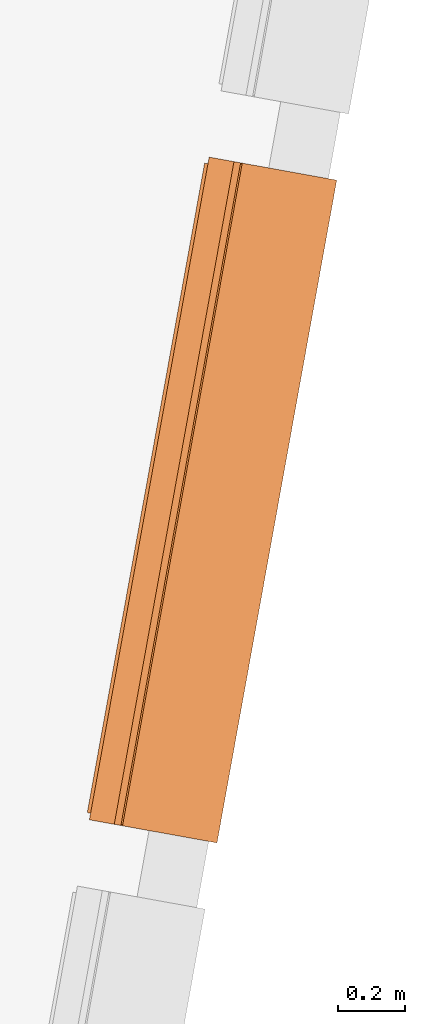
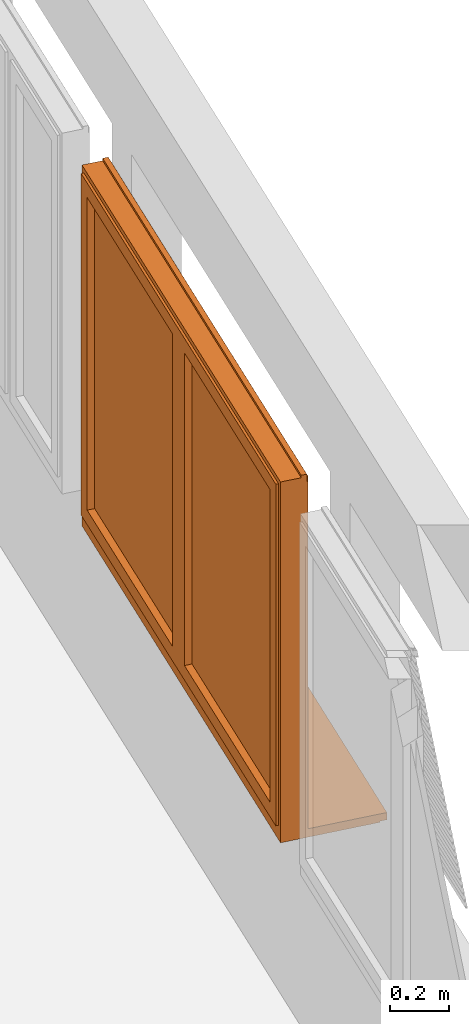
# One storey, part 36 of 52: 1 proxy.
"""IFC2X3 building model written with IfcOpenShell, lengths in metres."""

from ifc_helpers import new_model, entity, si_unit, converted_unit, derived_unit, money_unit, direction, frame, origin_with_axes, place, context, subcontext, project, spatial, open_shell, faceted_brep, surface_model, material, type_object, element, save


model = new_model("IFC2X3")

# Units and contexts
model_context = context("Model", 3, precision=1e-05, world=origin_with_axes(), true_north=direction((0.0, 1.0)))
body_context = subcontext(model_context, "Body", "Model", "MODEL_VIEW")
ifc_project = project(units=[si_unit("LENGTHUNIT", "METRE"), si_unit("AREAUNIT", "SQUARE_METRE"), si_unit("VOLUMEUNIT", "CUBIC_METRE"), converted_unit("PLANEANGLEUNIT", "DEGREE", entity("IfcPlaneAngleMeasure", 0.0174532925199), si_unit("PLANEANGLEUNIT", "RADIAN"), dimensions=[0, 0, 0, 0, 0, 0, 0]), money_unit("CHF"), converted_unit("TIMEUNIT", "Year", entity("IfcTimeMeasure", 31556926.0), si_unit("TIMEUNIT", "SECOND"), dimensions=[0, 0, 1, 0, 0, 0, 0]), si_unit("MASSUNIT", "GRAM", prefix="KILO"), si_unit("THERMODYNAMICTEMPERATUREUNIT", "DEGREE_CELSIUS"), si_unit("LUMINOUSINTENSITYUNIT", "LUMEN"), si_unit("ENERGYUNIT", "JOULE", prefix="MEGA"), derived_unit("THERMALCONDUCTANCEUNIT", [(si_unit("POWERUNIT", "WATT"), 1), (si_unit("LENGTHUNIT", "METRE"), -1), (si_unit("THERMODYNAMICTEMPERATUREUNIT", "KELVIN"), -1)]), derived_unit("SPECIFICHEATCAPACITYUNIT", [(si_unit("ENERGYUNIT", "JOULE"), 1), (si_unit("MASSUNIT", "GRAM", prefix="KILO"), -1), (si_unit("THERMODYNAMICTEMPERATUREUNIT", "KELVIN"), -1)]), derived_unit("MASSDENSITYUNIT", [(si_unit("MASSUNIT", "GRAM", prefix="KILO"), 1), (si_unit("VOLUMEUNIT", "CUBIC_METRE"), -1)])], contexts=[model_context])

# Site, building, storey
site_placement = place(None, frame((0.0, 0.0, 0.0), z_axis=(0.0, 0.0, 1.0), x_axis=(-0.177771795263, -0.984071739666, 0.0)))
site = spatial("IfcSite", under=ifc_project, at=site_placement, Name="Site", CompositionType="ELEMENT")
building_placement = place(site_placement, origin_with_axes())
building = spatial("IfcBuilding", under=site, at=building_placement, Name="Bâtiment", CompositionType="ELEMENT")
storey_placement = place(building_placement, frame((0.0, 0.0, 3.2), z_axis=(0.0, 0.0, 1.0), x_axis=(1.0, 0.0, 0.0)))
storey = spatial("IfcBuildingStorey", under=building, at=storey_placement, Name="R+1", CompositionType="ELEMENT", Elevation=3.2)

# Proxy
ifc_material = material(Name="Matériau de construction IFC")
building_element_proxy_type = type_object("IfcBuildingElementProxyType", Name="Fenêtre double 21", PredefinedType="NOTDEFINED")
proxy_placement = place(storey_placement, frame((160.099841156, -148.117150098, 1.0), z_axis=(0.0, 0.0, 1.0), x_axis=(-1.0, 0.0, 0.0)))
element("IfcBuildingElementProxy", 1, at=proxy_placement, inside=storey, type_object=building_element_proxy_type, material=ifc_material, Name="Fen classe-200", context=body_context, shape_type="SurfaceModel", body=[
    faceted_brep([(0.0, 0.285, 0.005), (0.0, 0.0, 0.005), (0.0, 0.0, 0.035), (0.0, 0.285, 0.035), (2.0, 0.285, 0.005), (2.0, 0.0, 0.005), (2.0, -0.025, 0.005), (0.0, -0.025, 0.005), (0.0, -0.025, 0.035), (2.0, -0.025, 0.035), (2.0, 0.0, 0.035), (2.0, 0.285, 0.035)], [[[0, 1, 2, 3]], [[0, 4, 5, 6, 7, 1]], [[1, 7, 8, 2]], [[3, 2, 8, 9, 10, 11]], [[4, 0, 3, 11]], [[5, 4, 11, 10]], [[6, 5, 10, 9]], [[7, 6, 9, 8]]]),
    faceted_brep([(0.0, 0.285, 0.0), (0.0, 0.0, 0.0), (0.0, 0.0, 0.005), (0.0, 0.285, 0.005), (2.0, 0.285, 0.0), (2.0, 0.0, 0.0), (2.0, 0.0, 0.005), (2.0, 0.285, 0.005)], [[[0, 1, 2, 3]], [[0, 4, 5, 1]], [[1, 5, 6, 2]], [[3, 2, 6, 7]], [[4, 0, 3, 7]], [[5, 4, 7, 6]]]),
    faceted_brep([(0.0, 0.285, 1.48), (0.00299999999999, 0.285, 1.48), (0.00299999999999, 0.265, 1.48), (0.0, 0.265, 1.48), (0.0, 0.285, 1.51), (0.00299999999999, 0.285, 1.51), (0.00299999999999, 0.265, 1.51), (0.0, 0.265, 1.51)], [[[0, 1, 2, 3]], [[4, 5, 1, 0]], [[1, 5, 6, 2]], [[3, 2, 6, 7]], [[0, 3, 7, 4]], [[7, 6, 5, 4]]]),
    faceted_brep([(1.997, 0.285, 1.48), (2.0, 0.285, 1.48), (2.0, 0.265, 1.48), (1.997, 0.265, 1.48), (1.997, 0.285, 1.51), (2.0, 0.285, 1.51), (2.0, 0.265, 1.51), (1.997, 0.265, 1.51)], [[[0, 1, 2, 3]], [[4, 5, 1, 0]], [[1, 5, 6, 2]], [[3, 2, 6, 7]], [[0, 3, 7, 4]], [[7, 6, 5, 4]]]),
    faceted_brep([(0.00299999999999, 0.285, 1.48), (1.997, 0.285, 1.48), (1.997, 0.282, 1.48), (0.00299999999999, 0.282, 1.48), (0.00299999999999, 0.285, 1.51), (1.997, 0.285, 1.51), (1.997, 0.265, 1.51), (1.997, 0.265, 1.48), (1.997, 0.268, 1.48), (1.997, 0.268, 1.5), (1.997, 0.26, 1.5), (1.997, 0.26, 1.48), (1.997, 0.263, 1.48), (1.997, 0.263, 1.503), (1.997, 0.268, 1.503), (1.997, 0.268, 1.507), (1.997, 0.282, 1.507), (1.997, 0.282, 1.5), (0.00299999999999, 0.282, 1.5), (0.00299999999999, 0.282, 1.507), (0.00299999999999, 0.268, 1.507), (0.00299999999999, 0.268, 1.503), (0.00299999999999, 0.263, 1.503), (0.00299999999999, 0.263, 1.48), (0.00299999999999, 0.26, 1.48), (0.00299999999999, 0.26, 1.5), (0.00299999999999, 0.268, 1.5), (0.00299999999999, 0.268, 1.48), (0.00299999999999, 0.265, 1.48), (0.00299999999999, 0.265, 1.51)], [[[0, 1, 2, 3]], [[4, 5, 1, 0]], [[1, 5, 6, 7, 8, 9, 10, 11, 12, 13, 14, 15, 16, 17, 2]], [[3, 2, 17, 18]], [[0, 3, 18, 19, 20, 21, 22, 23, 24, 25, 26, 27, 28, 29, 4]], [[29, 6, 5, 4]], [[28, 7, 6, 29]], [[27, 8, 7, 28]], [[26, 9, 8, 27]], [[25, 10, 9, 26]], [[24, 11, 10, 25]], [[23, 12, 11, 24]], [[22, 13, 12, 23]], [[21, 14, 13, 22]], [[20, 15, 14, 21]], [[19, 16, 15, 20]], [[18, 17, 16, 19]]]),
    faceted_brep([(2.0, 0.285, 0.03), (2.0, 0.285, 1.48), (2.0, 0.26, 1.48), (2.0, 0.26, 0.03), (1.975, 0.285, 0.03), (1.975, 0.285, 1.48), (1.975, 0.282, 1.48), (1.997, 0.282, 1.48), (1.997, 0.263, 1.48), (1.975, 0.263, 1.48), (1.975, 0.26, 1.48), (1.975, 0.26, 0.03), (1.975, 0.263, 0.03), (1.997, 0.263, 0.03), (1.997, 0.282, 0.03), (1.975, 0.282, 0.03)], [[[0, 1, 2, 3]], [[4, 5, 1, 0]], [[1, 5, 6, 7, 8, 9, 10, 2]], [[3, 2, 10, 11]], [[0, 3, 11, 12, 13, 14, 15, 4]], [[15, 6, 5, 4]], [[14, 7, 6, 15]], [[13, 8, 7, 14]], [[12, 9, 8, 13]], [[11, 10, 9, 12]]]),
    faceted_brep([(0.0, 0.285, 0.03), (0.0, 0.26, 0.03), (0.0, 0.26, 1.48), (0.0, 0.285, 1.48), (0.025, 0.285, 0.03), (0.025, 0.282, 0.03), (0.00299999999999, 0.282, 0.03), (0.00299999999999, 0.263, 0.03), (0.025, 0.263, 0.03), (0.025, 0.26, 0.03), (0.025, 0.26, 1.48), (0.025, 0.263, 1.48), (0.00299999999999, 0.263, 1.48), (0.00299999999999, 0.282, 1.48), (0.025, 0.282, 1.48), (0.025, 0.285, 1.48)], [[[0, 1, 2, 3]], [[0, 4, 5, 6, 7, 8, 9, 1]], [[1, 9, 10, 2]], [[3, 2, 10, 11, 12, 13, 14, 15]], [[4, 0, 3, 15]], [[5, 4, 15, 14]], [[6, 5, 14, 13]], [[7, 6, 13, 12]], [[8, 7, 12, 11]], [[9, 8, 11, 10]]]),
    faceted_brep([(1.997, 0.27375, 1.505), (1.997, 0.273333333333, 1.50333333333), (0.00299999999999, 0.273333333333, 1.50333333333), (0.00299999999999, 0.27375, 1.505), (1.997, 0.26875, 1.505), (1.997, 0.268333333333, 1.50333333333), (1.997, 0.268333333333, 1.49666666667), (1.997, 0.27, 1.49), (1.997, 0.275, 1.49), (1.997, 0.273333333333, 1.49666666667), (0.00299999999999, 0.273333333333, 1.49666666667), (0.00299999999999, 0.275, 1.49), (0.00299999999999, 0.27, 1.49), (0.00299999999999, 0.268333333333, 1.49666666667), (0.00299999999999, 0.268333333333, 1.50333333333), (0.00299999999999, 0.26875, 1.505)], [[[0, 1, 2, 3]], [[4, 5, 6, 7, 8, 9, 1, 0]], [[2, 1, 9, 10]], [[3, 2, 10, 11, 12, 13, 14, 15]], [[3, 15, 4, 0]], [[14, 5, 4, 15]], [[13, 6, 5, 14]], [[12, 7, 6, 13]], [[11, 8, 7, 12]], [[10, 9, 8, 11]]]),
    faceted_brep([(0.00299999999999, 0.275, 1.49), (1.997, 0.275, 1.49), (1.997, 0.273333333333, 1.48333333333), (0.00299999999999, 0.273333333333, 1.48333333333), (0.00299999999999, 0.27, 1.49), (1.997, 0.27, 1.49), (1.997, 0.268333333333, 1.48333333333), (1.997, 0.268333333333, 1.47666666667), (1.997, 0.27, 1.47), (1.997, 0.275, 1.47), (1.997, 0.273333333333, 1.47666666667), (0.00299999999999, 0.273333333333, 1.47666666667), (0.00299999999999, 0.275, 1.47), (0.00299999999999, 0.27, 1.47), (0.00299999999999, 0.268333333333, 1.47666666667), (0.00299999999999, 0.268333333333, 1.48333333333)], [[[0, 1, 2, 3]], [[4, 5, 1, 0]], [[1, 5, 6, 7, 8, 9, 10, 2]], [[3, 2, 10, 11]], [[0, 3, 11, 12, 13, 14, 15, 4]], [[15, 6, 5, 4]], [[14, 7, 6, 15]], [[13, 8, 7, 14]], [[12, 9, 8, 13]], [[11, 10, 9, 12]]]),
    faceted_brep([(0.00299999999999, 0.275, 1.47), (1.997, 0.275, 1.47), (1.997, 0.273333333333, 1.46333333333), (0.00299999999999, 0.273333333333, 1.46333333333), (0.00299999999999, 0.27, 1.47), (1.997, 0.27, 1.47), (1.997, 0.268333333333, 1.46333333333), (1.997, 0.268333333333, 1.45666666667), (1.997, 0.27, 1.45), (1.997, 0.275, 1.45), (1.997, 0.273333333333, 1.45666666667), (0.00299999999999, 0.273333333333, 1.45666666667), (0.00299999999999, 0.275, 1.45), (0.00299999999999, 0.27, 1.45), (0.00299999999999, 0.268333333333, 1.45666666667), (0.00299999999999, 0.268333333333, 1.46333333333)], [[[0, 1, 2, 3]], [[4, 5, 1, 0]], [[1, 5, 6, 7, 8, 9, 10, 2]], [[3, 2, 10, 11]], [[0, 3, 11, 12, 13, 14, 15, 4]], [[15, 6, 5, 4]], [[14, 7, 6, 15]], [[13, 8, 7, 14]], [[12, 9, 8, 13]], [[11, 10, 9, 12]]]),
    faceted_brep([(0.00299999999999, 0.275, 1.45), (1.997, 0.275, 1.45), (1.997, 0.273333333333, 1.44333333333), (0.00299999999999, 0.273333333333, 1.44333333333), (0.00299999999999, 0.27, 1.45), (1.997, 0.27, 1.45), (1.997, 0.268333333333, 1.44333333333), (1.997, 0.268333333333, 1.43666666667), (1.997, 0.27, 1.43), (1.997, 0.275, 1.43), (1.997, 0.273333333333, 1.43666666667), (0.00299999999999, 0.273333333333, 1.43666666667), (0.00299999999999, 0.275, 1.43), (0.00299999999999, 0.27, 1.43), (0.00299999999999, 0.268333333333, 1.43666666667), (0.00299999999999, 0.268333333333, 1.44333333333)], [[[0, 1, 2, 3]], [[4, 5, 1, 0]], [[1, 5, 6, 7, 8, 9, 10, 2]], [[3, 2, 10, 11]], [[0, 3, 11, 12, 13, 14, 15, 4]], [[15, 6, 5, 4]], [[14, 7, 6, 15]], [[13, 8, 7, 14]], [[12, 9, 8, 13]], [[11, 10, 9, 12]]]),
    faceted_brep([(0.00299999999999, 0.275, 1.43), (1.997, 0.275, 1.43), (1.997, 0.273333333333, 1.42333333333), (0.00299999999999, 0.273333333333, 1.42333333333), (0.00299999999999, 0.27, 1.43), (1.997, 0.27, 1.43), (1.997, 0.268333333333, 1.42333333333), (1.997, 0.268333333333, 1.41666666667), (1.997, 0.27, 1.41), (1.997, 0.275, 1.41), (1.997, 0.273333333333, 1.41666666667), (0.00299999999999, 0.273333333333, 1.41666666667), (0.00299999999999, 0.275, 1.41), (0.00299999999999, 0.27, 1.41), (0.00299999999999, 0.268333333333, 1.41666666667), (0.00299999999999, 0.268333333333, 1.42333333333)], [[[0, 1, 2, 3]], [[4, 5, 1, 0]], [[1, 5, 6, 7, 8, 9, 10, 2]], [[3, 2, 10, 11]], [[0, 3, 11, 12, 13, 14, 15, 4]], [[15, 6, 5, 4]], [[14, 7, 6, 15]], [[13, 8, 7, 14]], [[12, 9, 8, 13]], [[11, 10, 9, 12]]]),
    faceted_brep([(0.00299999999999, 0.275, 1.41), (1.997, 0.275, 1.41), (1.997, 0.273333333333, 1.40333333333), (0.00299999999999, 0.273333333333, 1.40333333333), (0.00299999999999, 0.27, 1.41), (1.997, 0.27, 1.41), (1.997, 0.268333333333, 1.40333333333), (1.997, 0.268333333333, 1.39666666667), (1.997, 0.27, 1.39), (1.997, 0.275, 1.39), (1.997, 0.273333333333, 1.39666666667), (0.00299999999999, 0.273333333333, 1.39666666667), (0.00299999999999, 0.275, 1.39), (0.00299999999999, 0.27, 1.39), (0.00299999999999, 0.268333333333, 1.39666666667), (0.00299999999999, 0.268333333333, 1.40333333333)], [[[0, 1, 2, 3]], [[4, 5, 1, 0]], [[1, 5, 6, 7, 8, 9, 10, 2]], [[3, 2, 10, 11]], [[0, 3, 11, 12, 13, 14, 15, 4]], [[15, 6, 5, 4]], [[14, 7, 6, 15]], [[13, 8, 7, 14]], [[12, 9, 8, 13]], [[11, 10, 9, 12]]]),
    faceted_brep([(0.00299999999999, 0.275, 1.39), (1.997, 0.275, 1.39), (1.997, 0.273333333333, 1.38333333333), (0.00299999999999, 0.273333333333, 1.38333333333), (0.00299999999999, 0.27, 1.39), (1.997, 0.27, 1.39), (1.997, 0.268333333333, 1.38333333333), (1.997, 0.268333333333, 1.37666666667), (1.997, 0.27, 1.37), (1.997, 0.275, 1.37), (1.997, 0.273333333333, 1.37666666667), (0.00299999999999, 0.273333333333, 1.37666666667), (0.00299999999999, 0.275, 1.37), (0.00299999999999, 0.27, 1.37), (0.00299999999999, 0.268333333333, 1.37666666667), (0.00299999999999, 0.268333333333, 1.38333333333)], [[[0, 1, 2, 3]], [[4, 5, 1, 0]], [[1, 5, 6, 7, 8, 9, 10, 2]], [[3, 2, 10, 11]], [[0, 3, 11, 12, 13, 14, 15, 4]], [[15, 6, 5, 4]], [[14, 7, 6, 15]], [[13, 8, 7, 14]], [[12, 9, 8, 13]], [[11, 10, 9, 12]]]),
    faceted_brep([(0.00299999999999, 0.275, 1.37), (1.997, 0.275, 1.37), (1.997, 0.273333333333, 1.36333333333), (0.00299999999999, 0.273333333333, 1.36333333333), (0.00299999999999, 0.27, 1.37), (1.997, 0.27, 1.37), (1.997, 0.268333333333, 1.36333333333), (1.997, 0.268333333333, 1.35666666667), (1.997, 0.27, 1.35), (1.997, 0.275, 1.35), (1.997, 0.273333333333, 1.35666666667), (0.00299999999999, 0.273333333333, 1.35666666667), (0.00299999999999, 0.275, 1.35), (0.00299999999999, 0.27, 1.35), (0.00299999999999, 0.268333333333, 1.35666666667), (0.00299999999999, 0.268333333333, 1.36333333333)], [[[0, 1, 2, 3]], [[4, 5, 1, 0]], [[1, 5, 6, 7, 8, 9, 10, 2]], [[3, 2, 10, 11]], [[0, 3, 11, 12, 13, 14, 15, 4]], [[15, 6, 5, 4]], [[14, 7, 6, 15]], [[13, 8, 7, 14]], [[12, 9, 8, 13]], [[11, 10, 9, 12]]]),
    faceted_brep([(0.00299999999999, 0.275, 1.35), (1.997, 0.275, 1.35), (1.997, 0.273333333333, 1.34333333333), (0.00299999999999, 0.273333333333, 1.34333333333), (0.00299999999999, 0.27, 1.35), (1.997, 0.27, 1.35), (1.997, 0.268333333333, 1.34333333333), (1.997, 0.268333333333, 1.33666666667), (1.997, 0.27, 1.33), (1.997, 0.275, 1.33), (1.997, 0.273333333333, 1.33666666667), (0.00299999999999, 0.273333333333, 1.33666666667), (0.00299999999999, 0.275, 1.33), (0.00299999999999, 0.27, 1.33), (0.00299999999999, 0.268333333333, 1.33666666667), (0.00299999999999, 0.268333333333, 1.34333333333)], [[[0, 1, 2, 3]], [[4, 5, 1, 0]], [[1, 5, 6, 7, 8, 9, 10, 2]], [[3, 2, 10, 11]], [[0, 3, 11, 12, 13, 14, 15, 4]], [[15, 6, 5, 4]], [[14, 7, 6, 15]], [[13, 8, 7, 14]], [[12, 9, 8, 13]], [[11, 10, 9, 12]]]),
    faceted_brep([(0.00299999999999, 0.275, 1.33), (1.997, 0.275, 1.33), (1.997, 0.273333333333, 1.32333333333), (0.00299999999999, 0.273333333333, 1.32333333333), (0.00299999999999, 0.27, 1.33), (1.997, 0.27, 1.33), (1.997, 0.268333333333, 1.32333333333), (1.997, 0.268333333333, 1.31666666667), (1.997, 0.27, 1.31), (1.997, 0.275, 1.31), (1.997, 0.273333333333, 1.31666666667), (0.00299999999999, 0.273333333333, 1.31666666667), (0.00299999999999, 0.275, 1.31), (0.00299999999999, 0.27, 1.31), (0.00299999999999, 0.268333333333, 1.31666666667), (0.00299999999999, 0.268333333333, 1.32333333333)], [[[0, 1, 2, 3]], [[4, 5, 1, 0]], [[1, 5, 6, 7, 8, 9, 10, 2]], [[3, 2, 10, 11]], [[0, 3, 11, 12, 13, 14, 15, 4]], [[15, 6, 5, 4]], [[14, 7, 6, 15]], [[13, 8, 7, 14]], [[12, 9, 8, 13]], [[11, 10, 9, 12]]]),
    faceted_brep([(0.00299999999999, 0.275, 1.31), (1.997, 0.275, 1.31), (1.997, 0.273333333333, 1.30333333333), (0.00299999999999, 0.273333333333, 1.30333333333), (0.00299999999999, 0.27, 1.31), (1.997, 0.27, 1.31), (1.997, 0.268333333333, 1.30333333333), (1.997, 0.268333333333, 1.29666666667), (1.997, 0.27, 1.29), (1.997, 0.275, 1.29), (1.997, 0.273333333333, 1.29666666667), (0.00299999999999, 0.273333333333, 1.29666666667), (0.00299999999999, 0.275, 1.29), (0.00299999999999, 0.27, 1.29), (0.00299999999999, 0.268333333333, 1.29666666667), (0.00299999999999, 0.268333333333, 1.30333333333)], [[[0, 1, 2, 3]], [[4, 5, 1, 0]], [[1, 5, 6, 7, 8, 9, 10, 2]], [[3, 2, 10, 11]], [[0, 3, 11, 12, 13, 14, 15, 4]], [[15, 6, 5, 4]], [[14, 7, 6, 15]], [[13, 8, 7, 14]], [[12, 9, 8, 13]], [[11, 10, 9, 12]]]),
    faceted_brep([(0.00299999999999, 0.275, 1.29), (1.997, 0.275, 1.29), (1.997, 0.273333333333, 1.28333333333), (0.00299999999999, 0.273333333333, 1.28333333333), (0.00299999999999, 0.27, 1.29), (1.997, 0.27, 1.29), (1.997, 0.268333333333, 1.28333333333), (1.997, 0.268333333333, 1.27666666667), (1.997, 0.27, 1.27), (1.997, 0.275, 1.27), (1.997, 0.273333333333, 1.27666666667), (0.00299999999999, 0.273333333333, 1.27666666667), (0.00299999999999, 0.275, 1.27), (0.00299999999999, 0.27, 1.27), (0.00299999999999, 0.268333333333, 1.27666666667), (0.00299999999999, 0.268333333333, 1.28333333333)], [[[0, 1, 2, 3]], [[4, 5, 1, 0]], [[1, 5, 6, 7, 8, 9, 10, 2]], [[3, 2, 10, 11]], [[0, 3, 11, 12, 13, 14, 15, 4]], [[15, 6, 5, 4]], [[14, 7, 6, 15]], [[13, 8, 7, 14]], [[12, 9, 8, 13]], [[11, 10, 9, 12]]]),
    faceted_brep([(0.00299999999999, 0.275, 1.27), (1.997, 0.275, 1.27), (1.997, 0.273333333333, 1.26333333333), (0.00299999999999, 0.273333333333, 1.26333333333), (0.00299999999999, 0.27, 1.27), (1.997, 0.27, 1.27), (1.997, 0.268333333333, 1.26333333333), (1.997, 0.268333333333, 1.25666666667), (1.997, 0.27, 1.25), (1.997, 0.275, 1.25), (1.997, 0.273333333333, 1.25666666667), (0.00299999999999, 0.273333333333, 1.25666666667), (0.00299999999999, 0.275, 1.25), (0.00299999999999, 0.27, 1.25), (0.00299999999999, 0.268333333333, 1.25666666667), (0.00299999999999, 0.268333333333, 1.26333333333)], [[[0, 1, 2, 3]], [[4, 5, 1, 0]], [[1, 5, 6, 7, 8, 9, 10, 2]], [[3, 2, 10, 11]], [[0, 3, 11, 12, 13, 14, 15, 4]], [[15, 6, 5, 4]], [[14, 7, 6, 15]], [[13, 8, 7, 14]], [[12, 9, 8, 13]], [[11, 10, 9, 12]]]),
    faceted_brep([(0.00299999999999, 0.275, 1.25), (1.997, 0.275, 1.25), (1.997, 0.273333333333, 1.24333333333), (0.00299999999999, 0.273333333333, 1.24333333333), (0.00299999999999, 0.27, 1.25), (1.997, 0.27, 1.25), (1.997, 0.268333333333, 1.24333333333), (1.997, 0.268333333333, 1.23666666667), (1.997, 0.27, 1.23), (1.997, 0.275, 1.23), (1.997, 0.273333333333, 1.23666666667), (0.00299999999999, 0.273333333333, 1.23666666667), (0.00299999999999, 0.275, 1.23), (0.00299999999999, 0.27, 1.23), (0.00299999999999, 0.268333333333, 1.23666666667), (0.00299999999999, 0.268333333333, 1.24333333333)], [[[0, 1, 2, 3]], [[4, 5, 1, 0]], [[1, 5, 6, 7, 8, 9, 10, 2]], [[3, 2, 10, 11]], [[0, 3, 11, 12, 13, 14, 15, 4]], [[15, 6, 5, 4]], [[14, 7, 6, 15]], [[13, 8, 7, 14]], [[12, 9, 8, 13]], [[11, 10, 9, 12]]]),
    faceted_brep([(0.00299999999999, 0.275, 1.23), (1.997, 0.275, 1.23), (1.997, 0.273333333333, 1.22333333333), (0.00299999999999, 0.273333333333, 1.22333333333), (0.00299999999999, 0.27, 1.23), (1.997, 0.27, 1.23), (1.997, 0.268333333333, 1.22333333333), (1.997, 0.268333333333, 1.21666666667), (1.997, 0.27, 1.21), (1.997, 0.275, 1.21), (1.997, 0.273333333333, 1.21666666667), (0.00299999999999, 0.273333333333, 1.21666666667), (0.00299999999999, 0.275, 1.21), (0.00299999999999, 0.27, 1.21), (0.00299999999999, 0.268333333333, 1.21666666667), (0.00299999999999, 0.268333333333, 1.22333333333)], [[[0, 1, 2, 3]], [[4, 5, 1, 0]], [[1, 5, 6, 7, 8, 9, 10, 2]], [[3, 2, 10, 11]], [[0, 3, 11, 12, 13, 14, 15, 4]], [[15, 6, 5, 4]], [[14, 7, 6, 15]], [[13, 8, 7, 14]], [[12, 9, 8, 13]], [[11, 10, 9, 12]]]),
    faceted_brep([(0.00299999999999, 0.275, 1.21), (1.997, 0.275, 1.21), (1.997, 0.273333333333, 1.20333333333), (0.00299999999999, 0.273333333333, 1.20333333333), (0.00299999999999, 0.27, 1.21), (1.997, 0.27, 1.21), (1.997, 0.268333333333, 1.20333333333), (1.997, 0.268333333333, 1.19666666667), (1.997, 0.27, 1.19), (1.997, 0.275, 1.19), (1.997, 0.273333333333, 1.19666666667), (0.00299999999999, 0.273333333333, 1.19666666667), (0.00299999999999, 0.275, 1.19), (0.00299999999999, 0.27, 1.19), (0.00299999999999, 0.268333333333, 1.19666666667), (0.00299999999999, 0.268333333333, 1.20333333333)], [[[0, 1, 2, 3]], [[4, 5, 1, 0]], [[1, 5, 6, 7, 8, 9, 10, 2]], [[3, 2, 10, 11]], [[0, 3, 11, 12, 13, 14, 15, 4]], [[15, 6, 5, 4]], [[14, 7, 6, 15]], [[13, 8, 7, 14]], [[12, 9, 8, 13]], [[11, 10, 9, 12]]]),
    faceted_brep([(0.00299999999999, 0.275, 1.19), (1.997, 0.275, 1.19), (1.997, 0.273333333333, 1.18333333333), (0.00299999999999, 0.273333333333, 1.18333333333), (0.00299999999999, 0.27, 1.19), (1.997, 0.27, 1.19), (1.997, 0.268333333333, 1.18333333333), (1.997, 0.268333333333, 1.17666666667), (1.997, 0.27, 1.17), (1.997, 0.275, 1.17), (1.997, 0.273333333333, 1.17666666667), (0.00299999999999, 0.273333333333, 1.17666666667), (0.00299999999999, 0.275, 1.17), (0.00299999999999, 0.27, 1.17), (0.00299999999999, 0.268333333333, 1.17666666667), (0.00299999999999, 0.268333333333, 1.18333333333)], [[[0, 1, 2, 3]], [[4, 5, 1, 0]], [[1, 5, 6, 7, 8, 9, 10, 2]], [[3, 2, 10, 11]], [[0, 3, 11, 12, 13, 14, 15, 4]], [[15, 6, 5, 4]], [[14, 7, 6, 15]], [[13, 8, 7, 14]], [[12, 9, 8, 13]], [[11, 10, 9, 12]]]),
    faceted_brep([(0.00299999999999, 0.275, 1.17), (1.997, 0.275, 1.17), (1.997, 0.273333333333, 1.16333333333), (0.00299999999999, 0.273333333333, 1.16333333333), (0.00299999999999, 0.27, 1.17), (1.997, 0.27, 1.17), (1.997, 0.268333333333, 1.16333333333), (1.997, 0.268333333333, 1.15666666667), (1.997, 0.27, 1.15), (1.997, 0.275, 1.15), (1.997, 0.273333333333, 1.15666666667), (0.00299999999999, 0.273333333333, 1.15666666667), (0.00299999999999, 0.275, 1.15), (0.00299999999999, 0.27, 1.15), (0.00299999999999, 0.268333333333, 1.15666666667), (0.00299999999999, 0.268333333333, 1.16333333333)], [[[0, 1, 2, 3]], [[4, 5, 1, 0]], [[1, 5, 6, 7, 8, 9, 10, 2]], [[3, 2, 10, 11]], [[0, 3, 11, 12, 13, 14, 15, 4]], [[15, 6, 5, 4]], [[14, 7, 6, 15]], [[13, 8, 7, 14]], [[12, 9, 8, 13]], [[11, 10, 9, 12]]]),
    faceted_brep([(0.00299999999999, 0.275, 1.15), (1.997, 0.275, 1.15), (1.997, 0.273333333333, 1.14333333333), (0.00299999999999, 0.273333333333, 1.14333333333), (0.00299999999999, 0.27, 1.15), (1.997, 0.27, 1.15), (1.997, 0.268333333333, 1.14333333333), (1.997, 0.268333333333, 1.13666666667), (1.997, 0.27, 1.13), (1.997, 0.275, 1.13), (1.997, 0.273333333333, 1.13666666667), (0.00299999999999, 0.273333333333, 1.13666666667), (0.00299999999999, 0.275, 1.13), (0.00299999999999, 0.27, 1.13), (0.00299999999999, 0.268333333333, 1.13666666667), (0.00299999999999, 0.268333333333, 1.14333333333)], [[[0, 1, 2, 3]], [[4, 5, 1, 0]], [[1, 5, 6, 7, 8, 9, 10, 2]], [[3, 2, 10, 11]], [[0, 3, 11, 12, 13, 14, 15, 4]], [[15, 6, 5, 4]], [[14, 7, 6, 15]], [[13, 8, 7, 14]], [[12, 9, 8, 13]], [[11, 10, 9, 12]]]),
    faceted_brep([(0.00299999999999, 0.275, 1.13), (1.997, 0.275, 1.13), (1.997, 0.273333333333, 1.12333333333), (0.00299999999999, 0.273333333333, 1.12333333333), (0.00299999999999, 0.27, 1.13), (1.997, 0.27, 1.13), (1.997, 0.268333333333, 1.12333333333), (1.997, 0.268333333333, 1.11666666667), (1.997, 0.27, 1.11), (1.997, 0.275, 1.11), (1.997, 0.273333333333, 1.11666666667), (0.00299999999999, 0.273333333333, 1.11666666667), (0.00299999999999, 0.275, 1.11), (0.00299999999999, 0.27, 1.11), (0.00299999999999, 0.268333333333, 1.11666666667), (0.00299999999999, 0.268333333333, 1.12333333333)], [[[0, 1, 2, 3]], [[4, 5, 1, 0]], [[1, 5, 6, 7, 8, 9, 10, 2]], [[3, 2, 10, 11]], [[0, 3, 11, 12, 13, 14, 15, 4]], [[15, 6, 5, 4]], [[14, 7, 6, 15]], [[13, 8, 7, 14]], [[12, 9, 8, 13]], [[11, 10, 9, 12]]]),
    faceted_brep([(0.00299999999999, 0.275, 1.11), (1.997, 0.275, 1.11), (1.997, 0.273333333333, 1.10333333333), (0.00299999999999, 0.273333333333, 1.10333333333), (0.00299999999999, 0.27, 1.11), (1.997, 0.27, 1.11), (1.997, 0.268333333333, 1.10333333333), (1.997, 0.268333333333, 1.09666666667), (1.997, 0.27, 1.09), (1.997, 0.275, 1.09), (1.997, 0.273333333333, 1.09666666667), (0.00299999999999, 0.273333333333, 1.09666666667), (0.00299999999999, 0.275, 1.09), (0.00299999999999, 0.27, 1.09), (0.00299999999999, 0.268333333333, 1.09666666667), (0.00299999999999, 0.268333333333, 1.10333333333)], [[[0, 1, 2, 3]], [[4, 5, 1, 0]], [[1, 5, 6, 7, 8, 9, 10, 2]], [[3, 2, 10, 11]], [[0, 3, 11, 12, 13, 14, 15, 4]], [[15, 6, 5, 4]], [[14, 7, 6, 15]], [[13, 8, 7, 14]], [[12, 9, 8, 13]], [[11, 10, 9, 12]]]),
    faceted_brep([(0.00299999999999, 0.275, 1.09), (1.997, 0.275, 1.09), (1.997, 0.273333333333, 1.08333333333), (0.00299999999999, 0.273333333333, 1.08333333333), (0.00299999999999, 0.27, 1.09), (1.997, 0.27, 1.09), (1.997, 0.268333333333, 1.08333333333), (1.997, 0.268333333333, 1.07666666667), (1.997, 0.27, 1.07), (1.997, 0.275, 1.07), (1.997, 0.273333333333, 1.07666666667), (0.00299999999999, 0.273333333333, 1.07666666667), (0.00299999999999, 0.275, 1.07), (0.00299999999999, 0.27, 1.07), (0.00299999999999, 0.268333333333, 1.07666666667), (0.00299999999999, 0.268333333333, 1.08333333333)], [[[0, 1, 2, 3]], [[4, 5, 1, 0]], [[1, 5, 6, 7, 8, 9, 10, 2]], [[3, 2, 10, 11]], [[0, 3, 11, 12, 13, 14, 15, 4]], [[15, 6, 5, 4]], [[14, 7, 6, 15]], [[13, 8, 7, 14]], [[12, 9, 8, 13]], [[11, 10, 9, 12]]]),
    faceted_brep([(0.00299999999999, 0.275, 1.07), (1.997, 0.275, 1.07), (1.997, 0.273333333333, 1.06333333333), (0.00299999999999, 0.273333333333, 1.06333333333), (0.00299999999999, 0.27, 1.07), (1.997, 0.27, 1.07), (1.997, 0.268333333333, 1.06333333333), (1.997, 0.268333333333, 1.05666666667), (1.997, 0.27, 1.05), (1.997, 0.275, 1.05), (1.997, 0.273333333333, 1.05666666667), (0.00299999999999, 0.273333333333, 1.05666666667), (0.00299999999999, 0.275, 1.05), (0.00299999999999, 0.27, 1.05), (0.00299999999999, 0.268333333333, 1.05666666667), (0.00299999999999, 0.268333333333, 1.06333333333)], [[[0, 1, 2, 3]], [[4, 5, 1, 0]], [[1, 5, 6, 7, 8, 9, 10, 2]], [[3, 2, 10, 11]], [[0, 3, 11, 12, 13, 14, 15, 4]], [[15, 6, 5, 4]], [[14, 7, 6, 15]], [[13, 8, 7, 14]], [[12, 9, 8, 13]], [[11, 10, 9, 12]]]),
    faceted_brep([(0.00299999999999, 0.275, 1.05), (1.997, 0.275, 1.05), (1.997, 0.273333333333, 1.04333333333), (0.00299999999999, 0.273333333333, 1.04333333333), (0.00299999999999, 0.27, 1.05), (1.997, 0.27, 1.05), (1.997, 0.268333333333, 1.04333333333), (1.997, 0.268333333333, 1.03666666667), (1.997, 0.27, 1.03), (1.997, 0.275, 1.03), (1.997, 0.273333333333, 1.03666666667), (0.00299999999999, 0.273333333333, 1.03666666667), (0.00299999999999, 0.275, 1.03), (0.00299999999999, 0.27, 1.03), (0.00299999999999, 0.268333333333, 1.03666666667), (0.00299999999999, 0.268333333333, 1.04333333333)], [[[0, 1, 2, 3]], [[4, 5, 1, 0]], [[1, 5, 6, 7, 8, 9, 10, 2]], [[3, 2, 10, 11]], [[0, 3, 11, 12, 13, 14, 15, 4]], [[15, 6, 5, 4]], [[14, 7, 6, 15]], [[13, 8, 7, 14]], [[12, 9, 8, 13]], [[11, 10, 9, 12]]]),
    faceted_brep([(0.02, 0.36, 1.47), (0.0, 0.36, 1.47), (0.0, 0.285, 1.47), (0.03, 0.285, 1.47), (0.03, 0.295, 1.47), (0.02, 0.295, 1.47), (0.02, 0.36, 0.07), (0.0, 0.36, 0.07), (0.0, 0.285, 0.07), (0.03, 0.285, 0.07), (0.03, 0.295, 0.07), (0.02, 0.295, 0.07)], [[[0, 1, 2, 3, 4, 5]], [[6, 7, 1, 0]], [[1, 7, 8, 2]], [[2, 8, 9, 3]], [[4, 3, 9, 10]], [[10, 11, 5, 4]], [[5, 11, 6, 0]], [[11, 10, 9, 8, 7, 6]]]),
    faceted_brep([(1.97, 0.295, 1.47), (1.97, 0.285, 1.47), (2.0, 0.285, 1.47), (2.0, 0.36, 1.47), (1.98, 0.36, 1.47), (1.98, 0.295, 1.47), (1.97, 0.295, 0.07), (1.97, 0.285, 0.07), (2.0, 0.285, 0.07), (2.0, 0.36, 0.07), (1.98, 0.36, 0.07), (1.98, 0.295, 0.07)], [[[0, 1, 2, 3, 4, 5]], [[6, 7, 1, 0]], [[8, 2, 1, 7]], [[9, 3, 2, 8]], [[4, 3, 9, 10]], [[10, 11, 5, 4]], [[5, 11, 6, 0]], [[11, 10, 9, 8, 7, 6]]]),
    faceted_brep([(0.99, 0.295, 1.47), (0.99, 0.285, 1.47), (1.01, 0.285, 1.47), (1.01, 0.295, 1.47), (0.99, 0.295, 0.07), (0.99, 0.285, 0.07), (1.01, 0.285, 0.07), (1.01, 0.295, 0.07)], [[[0, 1, 2, 3]], [[4, 5, 1, 0]], [[6, 2, 1, 5]], [[3, 2, 6, 7]], [[3, 7, 4, 0]], [[4, 7, 6, 5]]]),
    faceted_brep([(0.99, 0.295, 0.07), (0.99, 0.285, 0.07), (1.01, 0.285, 0.07), (1.01, 0.295, 0.07), (0.03, 0.295, 0.07), (0.03, 0.285, 0.07), (0.0, 0.285, 0.07), (0.0, 0.285, 0.0), (2.0, 0.285, 0.0), (2.0, 0.285, 0.07), (1.97, 0.285, 0.07), (1.97, 0.295, 0.07), (1.98, 0.295, 0.07), (1.98, 0.295, 0.06), (0.02, 0.295, 0.06), (0.02, 0.295, 0.07), (0.02, 0.36, 0.07), (0.0, 0.36, 0.07), (0.0, 0.36, 0.0), (2.0, 0.36, 0.0), (2.0, 0.36, 0.07), (1.98, 0.36, 0.07), (1.98, 0.36, 0.06), (0.02, 0.36, 0.06)], [[[0, 1, 2, 3]], [[4, 5, 1, 0]], [[6, 7, 8, 9, 10, 2, 1, 5]], [[3, 2, 10, 11]], [[3, 11, 12, 13, 14, 15, 4, 0]], [[15, 16, 17, 6, 5, 4]], [[17, 18, 7, 6]], [[18, 19, 8, 7]], [[19, 20, 9, 8]], [[11, 10, 9, 20, 21, 12]], [[22, 13, 12, 21]], [[14, 13, 22, 23]], [[15, 14, 23, 16]], [[23, 22, 21, 20, 19, 18, 17, 16]]]),
    faceted_brep([(0.02, 0.36, 1.47), (0.0, 0.36, 1.47), (0.0, 0.36, 1.5), (2.0, 0.36, 1.5), (2.0, 0.36, 1.47), (1.98, 0.36, 1.47), (1.98, 0.36, 1.48), (0.02, 0.36, 1.48), (0.02, 0.295, 1.47), (0.03, 0.295, 1.47), (0.03, 0.285, 1.47), (0.0, 0.285, 1.47), (0.0, 0.285, 1.5), (2.0, 0.285, 1.5), (2.0, 0.285, 1.47), (1.98, 0.295, 1.47), (1.97, 0.285, 1.47), (1.97, 0.295, 1.47), (1.98, 0.295, 1.48), (0.02, 0.295, 1.48), (1.01, 0.295, 1.47), (0.99, 0.295, 1.47), (0.99, 0.285, 1.47), (1.01, 0.285, 1.47)], [[[0, 1, 2, 3, 4, 5, 6, 7]], [[8, 9, 10, 11, 1, 0]], [[2, 1, 11, 12]], [[3, 2, 12, 13]], [[4, 3, 13, 14]], [[15, 5, 4, 14, 16, 17]], [[5, 15, 18, 6]], [[6, 18, 19, 7]], [[7, 19, 8, 0]], [[19, 18, 15, 17, 20, 21, 9, 8]], [[21, 22, 10, 9]], [[23, 16, 14, 13, 12, 11, 10, 22]], [[17, 16, 23, 20]], [[21, 20, 23, 22]]]),
    faceted_brep([(0.08, 0.295, 1.42), (0.08, 0.37, 1.42), (0.02, 0.37, 1.42), (0.02, 0.295, 1.42), (0.08, 0.295, 0.12), (0.08, 0.37, 0.12), (0.02, 0.37, 0.12), (0.02, 0.295, 0.12)], [[[0, 1, 2, 3]], [[4, 5, 1, 0]], [[1, 5, 6, 2]], [[3, 2, 6, 7]], [[0, 3, 7, 4]], [[7, 6, 5, 4]]]),
    faceted_brep([(0.94, 0.295, 0.12), (0.94, 0.37, 0.12), (1.0, 0.37, 0.12), (1.0, 0.295, 0.12), (0.94, 0.295, 1.42), (0.94, 0.37, 1.42), (1.0, 0.37, 1.42), (1.0, 0.295, 1.42)], [[[0, 1, 2, 3]], [[4, 5, 1, 0]], [[1, 5, 6, 2]], [[3, 2, 6, 7]], [[0, 3, 7, 4]], [[7, 6, 5, 4]]]),
    faceted_brep([(1.0, 0.295, 0.06), (1.0, 0.37, 0.06), (1.0, 0.37, 0.12), (1.0, 0.295, 0.12), (0.02, 0.295, 0.06), (0.02, 0.37, 0.06), (0.02, 0.37, 0.12), (0.08, 0.37, 0.12), (0.94, 0.37, 0.12), (0.94, 0.295, 0.12), (0.08, 0.295, 0.12), (0.02, 0.295, 0.12)], [[[0, 1, 2, 3]], [[4, 5, 1, 0]], [[1, 5, 6, 7, 8, 2]], [[3, 2, 8, 9]], [[0, 3, 9, 10, 11, 4]], [[11, 6, 5, 4]], [[10, 7, 6, 11]], [[9, 8, 7, 10]]]),
    faceted_brep([(0.02, 0.295, 1.48), (0.02, 0.37, 1.48), (0.02, 0.37, 1.42), (0.02, 0.295, 1.42), (1.0, 0.295, 1.48), (1.0, 0.37, 1.48), (1.0, 0.37, 1.42), (0.94, 0.37, 1.42), (0.08, 0.37, 1.42), (0.08, 0.295, 1.42), (0.94, 0.295, 1.42), (1.0, 0.295, 1.42)], [[[0, 1, 2, 3]], [[4, 5, 1, 0]], [[1, 5, 6, 7, 8, 2]], [[3, 2, 8, 9]], [[0, 3, 9, 10, 11, 4]], [[11, 6, 5, 4]], [[10, 7, 6, 11]], [[9, 8, 7, 10]]]),
    surface_model("IfcShellBasedSurfaceModel", [(0.08, 0.3225, 0.12), (0.94, 0.3225, 0.12), (0.94, 0.3225, 1.42), (0.08, 0.3225, 1.42)], [open_shell([[[0, 1, 2, 3]]])]),
    surface_model("IfcShellBasedSurfaceModel", [(0.08, 0.3425, 0.12), (0.08, 0.3425, 1.42), (0.94, 0.3425, 1.42), (0.94, 0.3425, 0.12)], [open_shell([[[0, 1, 2, 3]]])]),
    faceted_brep([(1.06, 0.295, 1.42), (1.06, 0.37, 1.42), (1.0, 0.37, 1.42), (1.0, 0.295, 1.42), (1.06, 0.295, 0.12), (1.06, 0.37, 0.12), (1.0, 0.37, 0.12), (1.0, 0.295, 0.12)], [[[0, 1, 2, 3]], [[4, 5, 1, 0]], [[1, 5, 6, 2]], [[3, 2, 6, 7]], [[0, 3, 7, 4]], [[7, 6, 5, 4]]]),
    faceted_brep([(1.92, 0.295, 0.12), (1.92, 0.37, 0.12), (1.98, 0.37, 0.12), (1.98, 0.295, 0.12), (1.92, 0.295, 1.42), (1.92, 0.37, 1.42), (1.98, 0.37, 1.42), (1.98, 0.295, 1.42)], [[[0, 1, 2, 3]], [[4, 5, 1, 0]], [[1, 5, 6, 2]], [[3, 2, 6, 7]], [[0, 3, 7, 4]], [[7, 6, 5, 4]]]),
    faceted_brep([(1.98, 0.295, 0.06), (1.98, 0.37, 0.06), (1.98, 0.37, 0.12), (1.98, 0.295, 0.12), (1.0, 0.295, 0.06), (1.0, 0.37, 0.06), (1.0, 0.37, 0.12), (1.06, 0.37, 0.12), (1.92, 0.37, 0.12), (1.92, 0.295, 0.12), (1.06, 0.295, 0.12), (1.0, 0.295, 0.12)], [[[0, 1, 2, 3]], [[4, 5, 1, 0]], [[1, 5, 6, 7, 8, 2]], [[3, 2, 8, 9]], [[0, 3, 9, 10, 11, 4]], [[11, 6, 5, 4]], [[10, 7, 6, 11]], [[9, 8, 7, 10]]]),
    faceted_brep([(1.0, 0.295, 1.48), (1.0, 0.37, 1.48), (1.0, 0.37, 1.42), (1.0, 0.295, 1.42), (1.98, 0.295, 1.48), (1.98, 0.37, 1.48), (1.98, 0.37, 1.42), (1.92, 0.37, 1.42), (1.06, 0.37, 1.42), (1.06, 0.295, 1.42), (1.92, 0.295, 1.42), (1.98, 0.295, 1.42)], [[[0, 1, 2, 3]], [[4, 5, 1, 0]], [[1, 5, 6, 7, 8, 2]], [[3, 2, 8, 9]], [[0, 3, 9, 10, 11, 4]], [[11, 6, 5, 4]], [[10, 7, 6, 11]], [[9, 8, 7, 10]]]),
    surface_model("IfcShellBasedSurfaceModel", [(1.06, 0.3225, 0.12), (1.92, 0.3225, 0.12), (1.92, 0.3225, 1.42), (1.06, 0.3225, 1.42)], [open_shell([[[0, 1, 2, 3]]])]),
    surface_model("IfcShellBasedSurfaceModel", [(1.06, 0.3425, 0.12), (1.06, 0.3425, 1.42), (1.92, 0.3425, 1.42), (1.92, 0.3425, 0.12)], [open_shell([[[0, 1, 2, 3]]])]),
])

save(model, "model.ifc")
